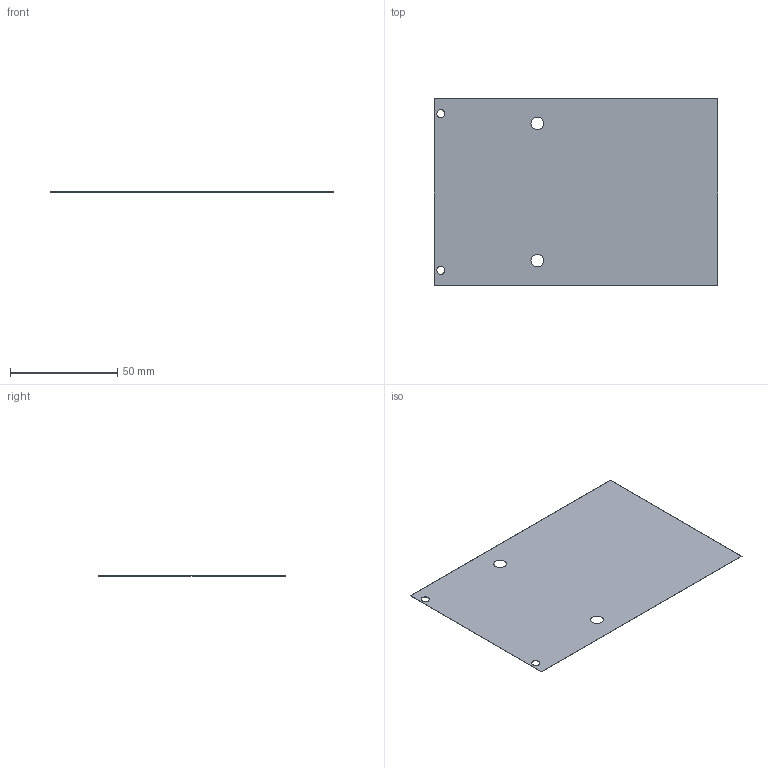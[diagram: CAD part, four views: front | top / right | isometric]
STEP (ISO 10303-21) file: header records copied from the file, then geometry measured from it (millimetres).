
FILE_DESCRIPTION(/* description */ ('BLIND PLATE 3U Siebdruck','CAx-IF Rec.Pracs.---Representation and Presentation of Product Manufacturing Information (PMI)---4.0---2014-10-13'),/* implementation_level */ '2;1');
FILE_NAME(/* name */ 'E:\CAMTEC_2020_Pack and Go\Subrack_3U\2081102001CA.stp',/* time_stamp */ '2020-09-21T18:29:15+02:00',/* author */ ('rryba'),/* organization */ (''),/* preprocessor_version */ 'ST-DEVELOPER v18.1',/* originating_system */ 'Autodesk Inventor 2021',/* authorisation */ '');
FILE_SCHEMA (('AP242_MANAGED_MODEL_BASED_3D_ENGINEERING_MIM_LF { 1 0 10303 442 1 1 4 }'));
Length unit declared in the file: millimetre
Products named in the file (1): 2081102001CA
Bounding box: 132.2 x 87 x 0.1 mm (x, y, z)
Volume: 1142.4 mm3; surface area: 22898 mm2
Topology: 1 solids, 1 shells, 10 faces, 30 edges, 26 vertices
Faces by surface type: plane 6, cylinder 4
Full cylindrical faces by diameter (mm): 3.8 x2, 5.9 x2
Entity records: 394 total; most frequent: CARTESIAN_POINT 61, DIRECTION 58, ORIENTED_EDGE 48, EDGE_CURVE 24, AXIS2_PLACEMENT_3D 21, EDGE_LOOP 18, LINE 16, VECTOR 16
